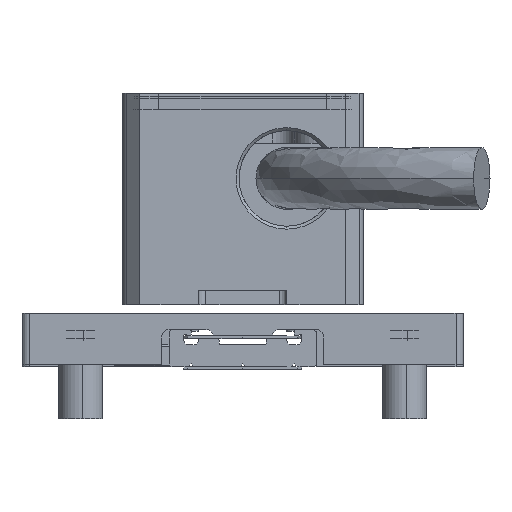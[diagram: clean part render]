
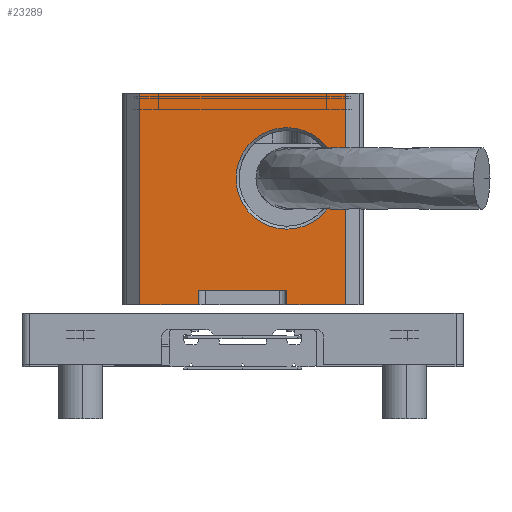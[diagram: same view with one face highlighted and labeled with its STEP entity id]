
A CAD part, left-side view. The second image highlights one B-rep face of the part: STEP entity #23289.
In plain terms, the highlighted planar face has unit normal (-1, 0, 0).
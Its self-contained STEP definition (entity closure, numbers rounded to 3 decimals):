
#1169 = DIRECTION ( 'NONE',  ( 0., 0., -1. ) ) ;
#2247 = CARTESIAN_POINT ( 'NONE',  ( -18., -7., 14.4 ) ) ;
#3541 = VECTOR ( 'NONE', #38111, 1000. ) ;
#4082 = PLANE ( 'NONE',  #8371 ) ;
#5922 = VERTEX_POINT ( 'NONE', #20143 ) ;
#6155 = LINE ( 'NONE', #30670, #30236 ) ;
#6992 = CARTESIAN_POINT ( 'NONE',  ( -18., -3., 1. ) ) ;
#7077 = VECTOR ( 'NONE', #46086, 1000. ) ;
#7207 = VERTEX_POINT ( 'NONE', #33467 ) ;
#7870 = DIRECTION ( 'NONE',  ( 0., -1., 0. ) ) ;
#8371 = AXIS2_PLACEMENT_3D ( 'NONE', #27557, #31490, #43488 ) ;
#8476 = AXIS2_PLACEMENT_3D ( 'NONE', #36918, #18090, #1169 ) ;
#8865 = VERTEX_POINT ( 'NONE', #42595 ) ;
#9102 = EDGE_CURVE ( 'NONE', #19029, #15267, #12758, .T. ) ;
#10249 = VECTOR ( 'NONE', #47745, 1000. ) ;
#10973 = DIRECTION ( 'NONE',  ( 0., -1., 0. ) ) ;
#11870 = EDGE_CURVE ( 'NONE', #40172, #22381, #43851, .T. ) ;
#11922 = CARTESIAN_POINT ( 'NONE',  ( -18., -3., -0.5 ) ) ;
#12232 = EDGE_CURVE ( 'NONE', #49775, #38264, #27355, .T. ) ;
#12495 = CARTESIAN_POINT ( 'NONE',  ( -18., -7., 14.4 ) ) ;
#12758 = CIRCLE ( 'NONE', #18554, 3.45 ) ;
#13557 = CARTESIAN_POINT ( 'NONE',  ( -18., -8.2, 0. ) ) ;
#13916 = CARTESIAN_POINT ( 'NONE',  ( -18., 3., 1. ) ) ;
#14738 = DIRECTION ( 'NONE',  ( 0., -1., 0. ) ) ;
#15030 = FACE_BOUND ( 'NONE', #24851, .T. ) ;
#15267 = VERTEX_POINT ( 'NONE', #37371 ) ;
#15409 = EDGE_CURVE ( 'NONE', #5922, #22381, #15656, .T. ) ;
#15656 = LINE ( 'NONE', #47248, #27783 ) ;
#17395 = VECTOR ( 'NONE', #39174, 1000. ) ;
#18090 = DIRECTION ( 'NONE',  ( 1., 0., 0. ) ) ;
#18153 = LINE ( 'NONE', #50000, #7077 ) ;
#18554 = AXIS2_PLACEMENT_3D ( 'NONE', #23389, #23649, #19735 ) ;
#19029 = VERTEX_POINT ( 'NONE', #24044 ) ;
#19735 = DIRECTION ( 'NONE',  ( 0., 0., -1. ) ) ;
#20121 = CIRCLE ( 'NONE', #8476, 3.45 ) ;
#20142 = ORIENTED_EDGE ( 'NONE', *, *, #15409, .F. ) ;
#20143 = CARTESIAN_POINT ( 'NONE',  ( -18., 7., 14.4 ) ) ;
#20629 = LINE ( 'NONE', #24037, #41768 ) ;
#21638 = EDGE_CURVE ( 'NONE', #28445, #38264, #20629, .T. ) ;
#22162 = LINE ( 'NONE', #13557, #3541 ) ;
#22381 = VERTEX_POINT ( 'NONE', #2247 ) ;
#23231 = LINE ( 'NONE', #46226, #17395 ) ;
#23289 = ADVANCED_FACE ( 'NONE', ( #15030, #23372 ), #4082, .F. ) ;
#23372 = FACE_OUTER_BOUND ( 'NONE', #26025, .T. ) ;
#23389 = CARTESIAN_POINT ( 'NONE',  ( -18., -3., 8.6 ) ) ;
#23649 = DIRECTION ( 'NONE',  ( 1., 0., 0. ) ) ;
#24037 = CARTESIAN_POINT ( 'NONE',  ( -18., 3., 1. ) ) ;
#24044 = CARTESIAN_POINT ( 'NONE',  ( -18., -3., 12.05 ) ) ;
#24851 = EDGE_LOOP ( 'NONE', ( #47442, #33108 ) ) ;
#26025 = EDGE_LOOP ( 'NONE', ( #43734, #43844, #28389, #33306, #38779, #20142, #28219, #40299 ) ) ;
#27355 = LINE ( 'NONE', #11922, #36108 ) ;
#27557 = CARTESIAN_POINT ( 'NONE',  ( -18., -8.2, 14.4 ) ) ;
#27597 = DIRECTION ( 'NONE',  ( 0., 0., 1. ) ) ;
#27783 = VECTOR ( 'NONE', #10973, 1000. ) ;
#28219 = ORIENTED_EDGE ( 'NONE', *, *, #35528, .T. ) ;
#28389 = ORIENTED_EDGE ( 'NONE', *, *, #12232, .F. ) ;
#28445 = VERTEX_POINT ( 'NONE', #13916 ) ;
#30190 = EDGE_CURVE ( 'NONE', #49775, #40172, #22162, .T. ) ;
#30236 = VECTOR ( 'NONE', #14738, 1000. ) ;
#30670 = CARTESIAN_POINT ( 'NONE',  ( -18., -8.2, 0. ) ) ;
#31490 = DIRECTION ( 'NONE',  ( 1., 0., 0. ) ) ;
#32560 = EDGE_CURVE ( 'NONE', #7207, #8865, #6155, .T. ) ;
#33108 = ORIENTED_EDGE ( 'NONE', *, *, #39932, .T. ) ;
#33306 = ORIENTED_EDGE ( 'NONE', *, *, #30190, .T. ) ;
#33467 = CARTESIAN_POINT ( 'NONE',  ( -18., 7., 0. ) ) ;
#35528 = EDGE_CURVE ( 'NONE', #5922, #7207, #18153, .T. ) ;
#36108 = VECTOR ( 'NONE', #27597, 1000. ) ;
#36918 = CARTESIAN_POINT ( 'NONE',  ( -18., -3., 8.6 ) ) ;
#37371 = CARTESIAN_POINT ( 'NONE',  ( -18., -3., 5.15 ) ) ;
#38111 = DIRECTION ( 'NONE',  ( 0., -1., 0. ) ) ;
#38264 = VERTEX_POINT ( 'NONE', #6992 ) ;
#38779 = ORIENTED_EDGE ( 'NONE', *, *, #11870, .T. ) ;
#39174 = DIRECTION ( 'NONE',  ( 0., 0., -1. ) ) ;
#39932 = EDGE_CURVE ( 'NONE', #15267, #19029, #20121, .T. ) ;
#40172 = VERTEX_POINT ( 'NONE', #40516 ) ;
#40299 = ORIENTED_EDGE ( 'NONE', *, *, #32560, .T. ) ;
#40516 = CARTESIAN_POINT ( 'NONE',  ( -18., -7., 0. ) ) ;
#41768 = VECTOR ( 'NONE', #7870, 1000. ) ;
#42595 = CARTESIAN_POINT ( 'NONE',  ( -18., 3., 0. ) ) ;
#43488 = DIRECTION ( 'NONE',  ( 0., 0., -1. ) ) ;
#43734 = ORIENTED_EDGE ( 'NONE', *, *, #48908, .F. ) ;
#43844 = ORIENTED_EDGE ( 'NONE', *, *, #21638, .T. ) ;
#43851 = LINE ( 'NONE', #12495, #10249 ) ;
#44772 = CARTESIAN_POINT ( 'NONE',  ( -18., -3., 0. ) ) ;
#46086 = DIRECTION ( 'NONE',  ( 0., 0., -1. ) ) ;
#46226 = CARTESIAN_POINT ( 'NONE',  ( -18., 3., -0.5 ) ) ;
#47248 = CARTESIAN_POINT ( 'NONE',  ( -18., -8.2, 14.4 ) ) ;
#47442 = ORIENTED_EDGE ( 'NONE', *, *, #9102, .T. ) ;
#47745 = DIRECTION ( 'NONE',  ( 0., 0., 1. ) ) ;
#48908 = EDGE_CURVE ( 'NONE', #28445, #8865, #23231, .T. ) ;
#49775 = VERTEX_POINT ( 'NONE', #44772 ) ;
#50000 = CARTESIAN_POINT ( 'NONE',  ( -18., 7., 14.4 ) ) ;
